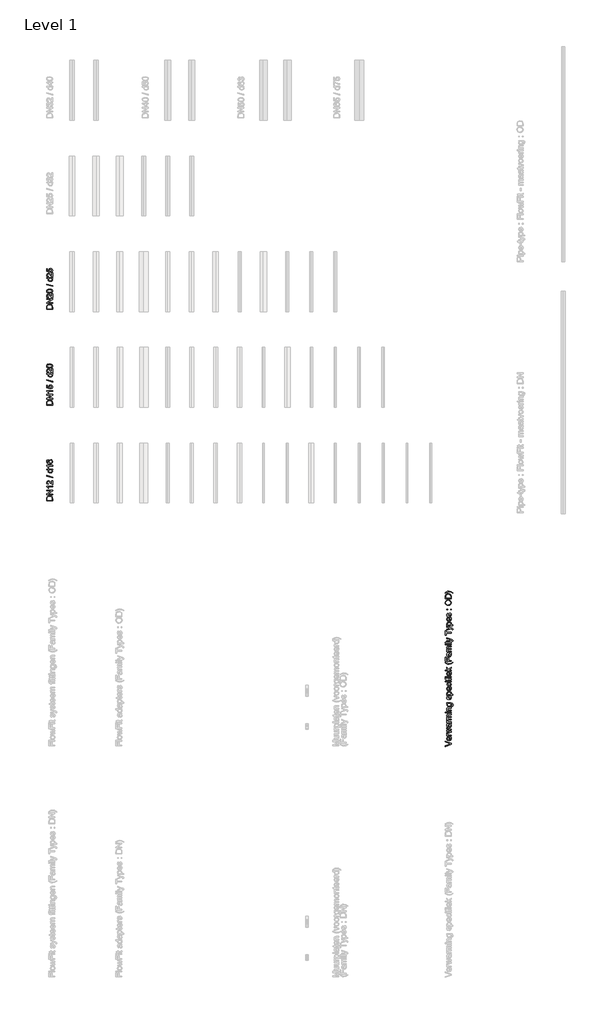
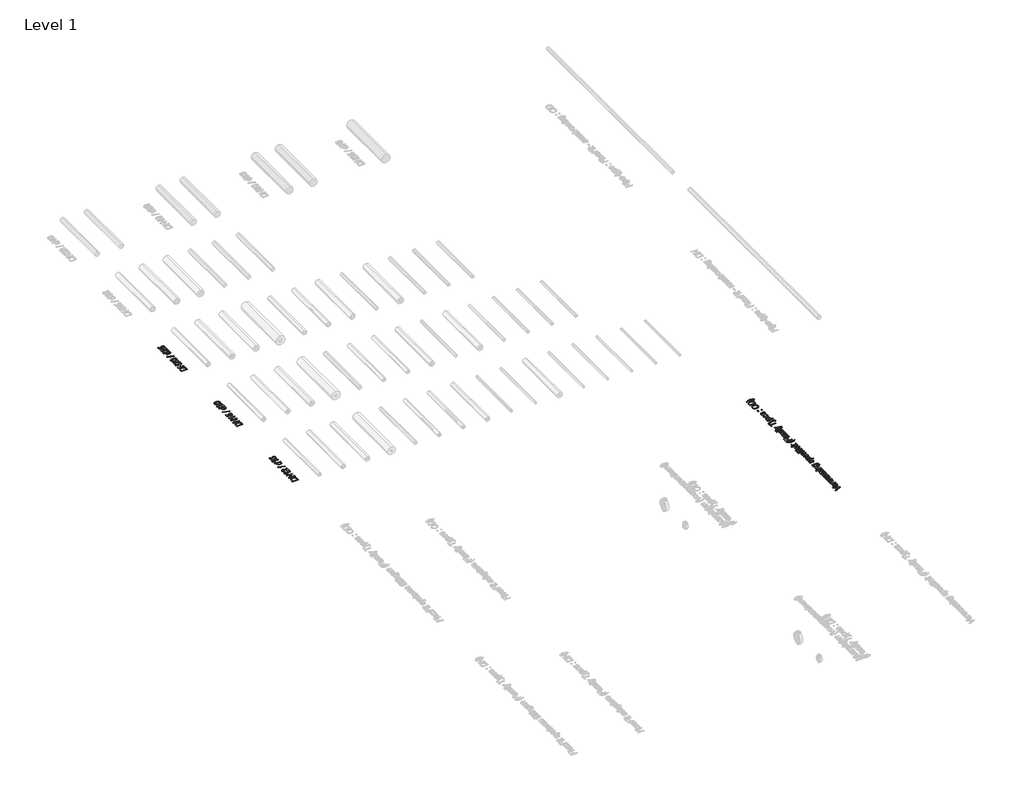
# One storey, part 9 of 11: 4 proxies.
"""IFC4 building model written with IfcOpenShell, lengths in millimetres."""

from ifc_helpers import new_model, si_unit, origin, origin_with_axes, place, context, project, spatial, polyline, outline, extrude, element, save

model = new_model("IFC4")

# Units and contexts
model_context = context("Model", 3, world=origin())
ifc_project = project(units=[si_unit("LENGTHUNIT", "METRE", prefix="MILLI")], contexts=[model_context])

# Site, building, storey
site = spatial("IfcSite", under=ifc_project)
building = spatial("IfcBuilding", under=site)
storey = spatial("IfcBuildingStorey", under=building, Name="Level 1", Elevation=0.0)

# Proxies
placement = place(None, origin())
element("IfcBuildingElementProxy", 1, Name="S", ObjectType="S", at=placement, inside=storey, context=model_context, shape_type="SweptSolid", body=[
    extrude(outline(polyline([(171.7931305, 4108.4123634), (121.5649754, 4108.4123634), (121.5649754, 4125.7396054), (122.2884767, 4134.7036634), (125.8814575, 4142.0858287), (134.4653707, 4148.0332543), (146.4092728, 4150.0075544), (156.5444218, 4148.6709164), (163.8591421, 4145.2373512), (168.4147475, 4140.6510889), (170.9347392, 4134.6484811), (171.7931305, 4126.5734713), (171.7931305, 4108.4123634)]), holes=[polyline([(165.5146111, 4114.6908828), (165.5146111, 4125.8009191), (164.6071689, 4133.8820602), (162.0442576, 4138.5418988), (155.8086578, 4142.3617402), (146.311171, 4143.729035), (134.4163198, 4141.0496278), (128.8490389, 4134.5319851), (127.8434948, 4125.6292408), (127.8434948, 4114.6908828), (165.5146111, 4114.6908828)])]), origin_with_axes(), (0.0, 0.0, 1.0), 3.0),
    extrude(outline(polyline([(171.7931305, 4158.6405185), (121.5649754, 4158.6405185), (121.5649754, 4165.3604963), (161.3575446, 4191.6027453), (121.5649754, 4191.6027453), (121.5649754, 4197.8812647), (171.7931305, 4197.8812647), (171.7931305, 4191.1612869), (131.9882986, 4164.9190379), (171.7931305, 4164.9190379), (171.7931305, 4158.6405185)])), origin_with_axes(), (0.0, 0.0, 1.0), 3.0),
    extrude(outline(polyline([(171.7931305, 4230.0586765), (171.7931305, 4223.7801571), (132.6504862, 4223.7801571), (136.8872605, 4217.8327315), (140.057177, 4211.2231184), (134.1220142, 4211.2231184), (128.248165, 4220.4262996), (121.5649754, 4226.0119746), (121.5649754, 4230.0586765), (171.7931305, 4230.0586765)])), origin_with_axes(), (0.0, 0.0, 1.0), 3.0),
    extrude(outline(polyline([(165.5146111, 4277.1475719), (171.7931305, 4277.1475719), (171.7931305, 4244.1853451), (167.4643857, 4244.8597954), (160.7995902, 4248.6735055), (153.5216581, 4256.5339174), (143.0615467, 4267.3741736), (135.9491614, 4270.0842376), (130.1918082, 4267.5274577), (127.8434948, 4260.8503995), (130.1366259, 4253.8912984), (136.476459, 4251.2486794), (135.691644, 4244.97016), (125.1824817, 4249.7832828), (121.5649754, 4260.9852896), (125.5871519, 4272.2240845), (135.5690167, 4276.362757), (141.5225737, 4275.2468482), (147.6784657, 4271.5373715), (156.280773, 4262.5426567), (162.3201691, 4255.3199068), (165.5146111, 4252.4872155), (165.5146111, 4277.1475719)])), origin_with_axes(), (0.0, 0.0, 1.0), 3.0),
    extrude(outline(polyline([(171.7931305, 4299.9072047), (121.5649754, 4314.0338733), (121.5649754, 4319.699256), (171.7931305, 4305.5725874), (171.7931305, 4299.9072047)])), origin_with_axes(), (0.0, 0.0, 1.0), 3.0),
    extrude(outline(polyline([(171.7931305, 4366.6164731), (165.8702304, 4366.6164731), (170.9010167, 4362.4624723), (172.5779454, 4356.7204474), (170.1499242, 4348.9458746), (163.3747642, 4343.4521702), (153.386768, 4341.5023956), (143.3926405, 4343.298886), (136.5132472, 4348.6822259), (134.1220142, 4356.695922), (135.8326655, 4362.483932), (140.2779062, 4366.6164731), (121.5649754, 4366.6164731), (121.5649754, 4372.8949925), (171.7931305, 4372.8949925), (171.7931305, 4366.6164731)]), holes=[polyline([(153.3622425, 4347.780915), (163.0804586, 4350.6136063), (166.299426, 4357.2967959), (163.2276114, 4363.9002777), (153.8404891, 4366.6164731), (143.6501579, 4363.8512268), (140.4005336, 4357.0392785), (143.5213992, 4350.4296653), (153.3622425, 4347.780915)])]), origin_with_axes(), (0.0, 0.0, 1.0), 3.0),
    extrude(outline(polyline([(171.7931305, 4404.2875894), (171.7931305, 4398.00907), (132.6504862, 4398.00907), (136.8872605, 4392.0616445), (140.057177, 4385.4520313), (134.1220142, 4385.4520313), (128.248165, 4394.6552125), (121.5649754, 4400.2408875), (121.5649754, 4404.2875894), (171.7931305, 4404.2875894)])), origin_with_axes(), (0.0, 0.0, 1.0), 3.0),
    extrude(outline(polyline([(134.9068291, 4451.3764848), (135.691644, 4445.0979654), (130.455457, 4442.7189952), (127.8434948, 4436.4282131), (129.3640737, 4430.7628303), (135.072376, 4426.4770051), (146.26212, 4424.6927774), (141.2527935, 4430.2294014), (139.6157186, 4437.0904007), (144.0916163, 4447.7589785), (155.6553736, 4452.1612997), (164.3189946, 4450.0888978), (170.4503612, 4444.3867269), (172.5779454, 4436.1584329), (166.9370882, 4423.3622709), (159.4690837, 4419.6512612), (148.3467847, 4418.414258), (135.8418625, 4419.7876842), (127.2916718, 4423.9079625), (122.9966495, 4429.5334913), (121.5649754, 4436.8206205), (125.1089053, 4446.7411717), (134.9068291, 4451.3764848)]), holes=[polyline([(155.5572718, 4424.6927774), (160.9957939, 4426.1459113), (164.944394, 4430.0086723), (166.299426, 4435.6679236), (163.4912601, 4443.0684831), (155.8638401, 4445.8827803), (148.5613825, 4443.1052713), (145.894238, 4435.4104062), (148.5613825, 4427.813643), (155.5572718, 4424.6927774)])]), origin_with_axes(), (0.0, 0.0, 1.0), 3.0),
])
element("IfcBuildingElementProxy", 2, Name="S", ObjectType="S", at=placement, inside=storey, context=model_context, shape_type="SweptSolid", body=[
    extrude(outline(polyline([(171.7931305, 4908.4123634), (121.5649754, 4908.4123634), (121.5649754, 4925.7396054), (122.2884767, 4934.7036634), (125.8814575, 4942.0858287), (134.4653707, 4948.0332543), (146.4092728, 4950.0075544), (156.5444218, 4948.6709164), (163.8591421, 4945.2373512), (168.4147475, 4940.6510889), (170.9347392, 4934.6484811), (171.7931305, 4926.5734713), (171.7931305, 4908.4123634)]), holes=[polyline([(165.5146111, 4914.6908828), (165.5146111, 4925.8009191), (164.6071689, 4933.8820602), (162.0442576, 4938.5418988), (155.8086578, 4942.3617402), (146.311171, 4943.729035), (134.4163198, 4941.0496278), (128.8490389, 4934.5319851), (127.8434948, 4925.6292408), (127.8434948, 4914.6908828), (165.5146111, 4914.6908828)])]), origin_with_axes(), (0.0, 0.0, 1.0), 3.0),
    extrude(outline(polyline([(171.7931305, 4958.6405185), (121.5649754, 4958.6405185), (121.5649754, 4965.3604963), (161.3575446, 4991.6027453), (121.5649754, 4991.6027453), (121.5649754, 4997.8812647), (171.7931305, 4997.8812647), (171.7931305, 4991.1612869), (131.9882986, 4964.9190379), (171.7931305, 4964.9190379), (171.7931305, 4958.6405185)])), origin_with_axes(), (0.0, 0.0, 1.0), 3.0),
    extrude(outline(polyline([(171.7931305, 5030.0586765), (171.7931305, 5023.7801571), (132.6504862, 5023.7801571), (136.8872605, 5017.8327315), (140.057177, 5011.2231184), (134.1220142, 5011.2231184), (128.248165, 5020.4262996), (121.5649754, 5026.0119746), (121.5649754, 5030.0586765), (171.7931305, 5030.0586765)])), origin_with_axes(), (0.0, 0.0, 1.0), 3.0),
    extrude(outline(polyline([(158.4512768, 5044.97016), (157.6664619, 5051.2486794), (164.1350536, 5054.4124646), (166.299426, 5060.9730268), (163.288925, 5068.8457015), (155.2997544, 5071.6538674), (147.8440126, 5069.0235112), (145.1094231, 5061.0711287), (146.2008064, 5055.5590301), (149.0334977, 5052.0334944), (148.2486828, 5045.754975), (122.3497903, 5051.2486794), (122.3497903, 5075.577942), (128.6283097, 5075.577942), (128.6283097, 5056.325451), (142.4606727, 5053.6399124), (138.8309037, 5062.8246995), (143.3313268, 5073.5607224), (154.9073469, 5077.9323868), (166.5569434, 5073.9960495), (171.0726949, 5068.3429295), (172.5779454, 5060.9485014), (168.7090531, 5049.8691219), (158.4512768, 5044.97016)])), origin_with_axes(), (0.0, 0.0, 1.0), 3.0),
    extrude(outline(polyline([(171.7931305, 5099.9072047), (121.5649754, 5114.0338733), (121.5649754, 5119.699256), (171.7931305, 5105.5725874), (171.7931305, 5099.9072047)])), origin_with_axes(), (0.0, 0.0, 1.0), 3.0),
    extrude(outline(polyline([(171.7931305, 5166.6164731), (165.8702304, 5166.6164731), (170.9010167, 5162.4624723), (172.5779454, 5156.7204474), (170.1499242, 5148.9458746), (163.3747642, 5143.4521702), (153.386768, 5141.5023956), (143.3926405, 5143.298886), (136.5132472, 5148.6822259), (134.1220142, 5156.695922), (135.8326655, 5162.483932), (140.2779062, 5166.6164731), (121.5649754, 5166.6164731), (121.5649754, 5172.8949925), (171.7931305, 5172.8949925), (171.7931305, 5166.6164731)]), holes=[polyline([(153.3622425, 5147.780915), (163.0804586, 5150.6136063), (166.299426, 5157.2967959), (163.2276114, 5163.9002777), (153.8404891, 5166.6164731), (143.6501579, 5163.8512268), (140.4005336, 5157.0392785), (143.5213992, 5150.4296653), (153.3622425, 5147.780915)])]), origin_with_axes(), (0.0, 0.0, 1.0), 3.0),
    extrude(outline(polyline([(165.5146111, 5212.9205536), (171.7931305, 5212.9205536), (171.7931305, 5179.9583268), (167.4643857, 5180.6327771), (160.7995902, 5184.4464872), (153.5216581, 5192.3068991), (143.0615467, 5203.1471552), (135.9491614, 5205.8572193), (130.1918082, 5203.3004394), (127.8434948, 5196.6233812), (130.1366259, 5189.6642801), (136.476459, 5187.0216611), (135.691644, 5180.7431417), (125.1824817, 5185.5562645), (121.5649754, 5196.7582713), (125.5871519, 5207.9970662), (135.5690167, 5212.1357387), (141.5225737, 5211.0198299), (147.6784657, 5207.3103532), (156.280773, 5198.3156384), (162.3201691, 5191.0928885), (165.5146111, 5188.2601972), (165.5146111, 5212.9205536)])), origin_with_axes(), (0.0, 0.0, 1.0), 3.0),
    extrude(outline(polyline([(147.0837231, 5219.199073), (132.6320921, 5221.0446143), (124.2995649, 5226.526056), (121.5649754, 5235.6801863), (123.1836562, 5243.0133008), (127.8496262, 5248.0778096), (135.2808425, 5251.0208655), (147.0837231, 5252.1612997), (161.4740405, 5250.3341525), (169.8249618, 5244.8711049), (172.5779454, 5235.6801863), (167.7954795, 5224.2022681), (159.3004711, 5220.4498717), (147.0837231, 5219.199073)]), holes=[polyline([(147.0714604, 5225.4775923), (162.6635256, 5228.4206483), (166.299426, 5235.6801863), (162.6512629, 5242.9397244), (147.0714604, 5245.8827803), (131.6572048, 5243.0378262), (127.8434948, 5235.6066099), (131.2034837, 5228.5187502), (147.0714604, 5225.4775923)])]), origin_with_axes(), (0.0, 0.0, 1.0), 3.0),
])
element("IfcBuildingElementProxy", 3, Name="S", ObjectType="S", at=placement, inside=storey, context=model_context, shape_type="SweptSolid", body=[
    extrude(outline(polyline([(171.7931305, 5708.4123634), (121.5649754, 5708.4123634), (121.5649754, 5725.7396054), (122.2884767, 5734.7036634), (125.8814575, 5742.0858287), (134.4653707, 5748.0332543), (146.4092728, 5750.0075544), (156.5444218, 5748.6709164), (163.8591421, 5745.2373512), (168.4147475, 5740.6510889), (170.9347392, 5734.6484811), (171.7931305, 5726.5734713), (171.7931305, 5708.4123634)]), holes=[polyline([(165.5146111, 5714.6908828), (165.5146111, 5725.8009191), (164.6071689, 5733.8820602), (162.0442576, 5738.5418988), (155.8086578, 5742.3617402), (146.311171, 5743.729035), (134.4163198, 5741.0496278), (128.8490389, 5734.5319851), (127.8434948, 5725.6292408), (127.8434948, 5714.6908828), (165.5146111, 5714.6908828)])]), origin_with_axes(), (0.0, 0.0, 1.0), 3.0),
    extrude(outline(polyline([(171.7931305, 5758.6405185), (121.5649754, 5758.6405185), (121.5649754, 5765.3604963), (161.3575446, 5791.6027453), (121.5649754, 5791.6027453), (121.5649754, 5797.8812647), (171.7931305, 5797.8812647), (171.7931305, 5791.1612869), (131.9882986, 5764.9190379), (171.7931305, 5764.9190379), (171.7931305, 5758.6405185)])), origin_with_axes(), (0.0, 0.0, 1.0), 3.0),
    extrude(outline(polyline([(165.5146111, 5838.6916407), (171.7931305, 5838.6916407), (171.7931305, 5805.7294139), (167.4643857, 5806.4038642), (160.7995902, 5810.2175742), (153.5216581, 5818.0779862), (143.0615467, 5828.9182423), (135.9491614, 5831.6283064), (130.1918082, 5829.0715265), (127.8434948, 5822.3944683), (130.1366259, 5815.4353672), (136.476459, 5812.7927482), (135.691644, 5806.5142288), (125.1824817, 5811.3273516), (121.5649754, 5822.5293583), (125.5871519, 5833.7681533), (135.5690167, 5837.9068257), (141.5225737, 5836.790917), (147.6784657, 5833.0814402), (156.280773, 5824.0867255), (162.3201691, 5816.8639756), (165.5146111, 5814.0312843), (165.5146111, 5838.6916407)])), origin_with_axes(), (0.0, 0.0, 1.0), 3.0),
    extrude(outline(polyline([(147.0837231, 5844.97016), (132.6320921, 5846.8157014), (124.2995649, 5852.2971431), (121.5649754, 5861.4512734), (123.1836562, 5868.7843879), (127.8496262, 5873.8488967), (135.2808425, 5876.7919526), (147.0837231, 5877.9323868), (161.4740405, 5876.1052396), (169.8249618, 5870.6421919), (172.5779454, 5861.4512734), (167.7954795, 5849.9733552), (159.3004711, 5846.2209588), (147.0837231, 5844.97016)]), holes=[polyline([(147.0714604, 5851.2486794), (162.6635256, 5854.1917354), (166.299426, 5861.4512734), (162.6512629, 5868.7108115), (147.0714604, 5871.6538674), (131.6572048, 5868.8089133), (127.8434948, 5861.377697), (131.2034837, 5854.2898373), (147.0714604, 5851.2486794)])]), origin_with_axes(), (0.0, 0.0, 1.0), 3.0),
    extrude(outline(polyline([(171.7931305, 5899.9072047), (121.5649754, 5914.0338733), (121.5649754, 5919.699256), (171.7931305, 5905.5725874), (171.7931305, 5899.9072047)])), origin_with_axes(), (0.0, 0.0, 1.0), 3.0),
    extrude(outline(polyline([(171.7931305, 5966.6164731), (165.8702304, 5966.6164731), (170.9010167, 5962.4624723), (172.5779454, 5956.7204474), (170.1499242, 5948.9458746), (163.3747642, 5943.4521702), (153.386768, 5941.5023956), (143.3926405, 5943.298886), (136.5132472, 5948.6822259), (134.1220142, 5956.695922), (135.8326655, 5962.483932), (140.2779062, 5966.6164731), (121.5649754, 5966.6164731), (121.5649754, 5972.8949925), (171.7931305, 5972.8949925), (171.7931305, 5966.6164731)]), holes=[polyline([(153.3622425, 5947.780915), (163.0804586, 5950.6136063), (166.299426, 5957.2967959), (163.2276114, 5963.9002777), (153.8404891, 5966.6164731), (143.6501579, 5963.8512268), (140.4005336, 5957.0392785), (143.5213992, 5950.4296653), (153.3622425, 5947.780915)])]), origin_with_axes(), (0.0, 0.0, 1.0), 3.0),
    extrude(outline(polyline([(165.5146111, 6012.9205536), (171.7931305, 6012.9205536), (171.7931305, 5979.9583268), (167.4643857, 5980.6327771), (160.7995902, 5984.4464872), (153.5216581, 5992.3068991), (143.0615467, 6003.1471552), (135.9491614, 6005.8572193), (130.1918082, 6003.3004394), (127.8434948, 5996.6233812), (130.1366259, 5989.6642801), (136.476459, 5987.0216611), (135.691644, 5980.7431417), (125.1824817, 5985.5562645), (121.5649754, 5996.7582713), (125.5871519, 6007.9970662), (135.5690167, 6012.1357387), (141.5225737, 6011.0198299), (147.6784657, 6007.3103532), (156.280773, 5998.3156384), (162.3201691, 5991.0928885), (165.5146111, 5988.2601972), (165.5146111, 6012.9205536)])), origin_with_axes(), (0.0, 0.0, 1.0), 3.0),
    extrude(outline(polyline([(158.4512768, 6019.199073), (157.6664619, 6025.4775923), (164.1350536, 6028.6413775), (166.299426, 6035.2019398), (163.288925, 6043.0746144), (155.2997544, 6045.8827803), (147.8440126, 6043.2524241), (145.1094231, 6035.3000416), (146.2008064, 6029.7879431), (149.0334977, 6026.2624073), (148.2486828, 6019.9838879), (122.3497903, 6025.4775923), (122.3497903, 6049.806855), (128.6283097, 6049.806855), (128.6283097, 6030.5543639), (142.4606727, 6027.8688253), (138.8309037, 6037.0536125), (143.3313268, 6047.7896354), (154.9073469, 6052.1612997), (166.5569434, 6048.2249624), (171.0726949, 6042.5718424), (172.5779454, 6035.1774143), (168.7090531, 6024.0980349), (158.4512768, 6019.199073)])), origin_with_axes(), (0.0, 0.0, 1.0), 3.0),
])
element("IfcBuildingElementProxy", 4, Name="S", ObjectType="S", at=placement, inside=storey, context=model_context, shape_type="SweptSolid", body=[
    extrude(outline(polyline([(3505.0, 2073.2502706), (3454.7718449, 2053.2620155), (3454.7718449, 2059.9819933), (3490.9591705, 2073.3606352), (3499.1138881, 2076.0706992), (3490.9591705, 2078.743975), (3454.7718449, 2092.1594051), (3454.7718449, 2098.8793829), (3505.0, 2079.7372564), (3505.0, 2073.2502706)])), origin_with_axes(), (0.0, 0.0, 1.0), 3.0),
    extrude(outline(polyline([(3494.0125911, 2129.756945), (3494.797406, 2135.9128371), (3502.9030726, 2130.1554839), (3505.7848149, 2119.4317237), (3500.8122766, 2106.3964383), (3486.8634176, 2101.5771842), (3472.4547062, 2106.4454893), (3467.3288837, 2119.0761044), (3472.4424434, 2131.344969), (3486.8266294, 2136.1090408), (3488.5188866, 2136.0722526), (3488.5188866, 2107.8557036), (3496.6736042, 2111.4670785), (3499.5062955, 2119.554351), (3498.1941831, 2125.7102431), (3494.0125911, 2129.756945)]), holes=[polyline([(3482.2403672, 2107.8557036), (3482.2403672, 2129.8305214), (3476.550459, 2127.3166611), (3473.6074031, 2119.051579), (3475.9557165, 2111.3199257), (3482.2403672, 2107.8557036)])]), origin_with_axes(), (0.0, 0.0, 1.0), 3.0),
    extrude(outline(polyline([(3505.0, 2142.3875602), (3468.1136986, 2142.3875602), (3468.1136986, 2147.8812647), (3473.5706149, 2147.8812647), (3468.5428943, 2151.7808138), (3467.3288837, 2155.7048884), (3469.2663955, 2162.0079333), (3474.8949901, 2159.9110059), (3473.6074031, 2155.496422), (3474.8459391, 2151.9463607), (3478.2795044, 2149.6838864), (3485.6126189, 2148.6660796), (3505.0, 2148.6660796), (3505.0, 2142.3875602)])), origin_with_axes(), (0.0, 0.0, 1.0), 3.0),
    extrude(outline(polyline([(3505.0, 2172.0511117), (3468.1136986, 2160.8307109), (3468.1136986, 2167.3544849), (3489.6347953, 2173.7188435), (3497.323529, 2175.6195671), (3489.9168382, 2177.1769342), (3468.1136986, 2182.241443), (3468.1136986, 2189.7217102), (3489.8555245, 2194.7616936), (3496.5632396, 2196.1473824), (3489.4876425, 2198.1339452), (3468.1136986, 2204.5105665), (3468.1136986, 2211.058866), (3505.0, 2199.752626), (3505.0, 2192.1619941), (3483.3685387, 2187.34274), (3476.6240354, 2185.9447884), (3505.0, 2179.7275827), (3505.0, 2172.0511117)])), origin_with_axes(), (0.0, 0.0, 1.0), 3.0),
    extrude(outline(polyline([(3500.2911105, 2238.9197957), (3504.5462789, 2232.8313487), (3505.7848149, 2226.1052396), (3502.8049708, 2216.9878975), (3495.1898135, 2213.8057182), (3490.2234065, 2215.007466), (3486.618163, 2218.1651198), (3484.5580238, 2222.5613097), (3483.6137933, 2227.9937005), (3481.4555523, 2238.8830075), (3475.4222876, 2237.1907504), (3473.6074031, 2230.2500434), (3474.8152823, 2223.8979476), (3479.1011075, 2220.8690525), (3478.3162926, 2214.5905331), (3472.184926, 2217.3067285), (3468.5919452, 2222.7759075), (3467.3288837, 2231.0593838), (3468.4447924, 2238.6684097), (3471.2468269, 2242.9664977), (3475.5081267, 2244.8917468), (3481.0018312, 2245.1983151), (3488.8131922, 2245.1983151), (3499.7208934, 2245.5171462), (3505.0, 2246.767945), (3505.0, 2240.4894256), (3500.2911105, 2238.9197957)]), holes=[polyline([(3487.7340717, 2238.9197957), (3489.6593208, 2228.7907781), (3490.6771277, 2223.3890442), (3492.3325966, 2220.9426289), (3494.7483551, 2220.0842376), (3498.1451322, 2221.9543044), (3499.5062955, 2227.4418775), (3498.0041107, 2233.7939733), (3494.3682103, 2237.8897261), (3489.512168, 2238.8830075), (3487.7340717, 2238.9197957)])]), origin_with_axes(), (0.0, 0.0, 1.0), 3.0),
    extrude(outline(polyline([(3505.0, 2253.8312793), (3468.1136986, 2253.8312793), (3468.1136986, 2259.3249837), (3473.5706149, 2259.3249837), (3468.5428943, 2263.2245329), (3467.3288837, 2267.1486075), (3469.2663955, 2273.4516523), (3474.8949901, 2271.354725), (3473.6074031, 2266.940141), (3474.8459391, 2263.3900798), (3478.2795044, 2261.1276055), (3485.6126189, 2260.1097987), (3505.0, 2260.1097987), (3505.0, 2253.8312793)])), origin_with_axes(), (0.0, 0.0, 1.0), 3.0),
    extrude(outline(polyline([(3505.0, 2277.375727), (3468.1136986, 2277.375727), (3468.1136986, 2283.6542463), (3474.1837515, 2283.6542463), (3469.2112132, 2287.9707284), (3467.3288837, 2294.1143577), (3469.2480014, 2300.4051399), (3474.6252099, 2303.8632306), (3469.1529653, 2308.7621925), (3467.3288837, 2314.9487414), (3470.3639102, 2323.1586413), (3479.7142442, 2326.0342522), (3505.0, 2326.0342522), (3505.0, 2319.7557328), (3482.4120455, 2319.7557328), (3477.1697271, 2319.173253), (3474.5884217, 2317.0640629), (3473.6074031, 2313.4772134), (3476.1212634, 2307.3029273), (3484.1778791, 2304.8442493), (3505.0, 2304.8442493), (3505.0, 2298.5657299), (3481.7130697, 2298.5657299), (3475.6307541, 2297.112596), (3473.6074031, 2292.3485242), (3474.9563037, 2287.7009483), (3478.9049038, 2284.6107395), (3486.3974338, 2283.6542463), (3505.0, 2283.6542463), (3505.0, 2277.375727)])), origin_with_axes(), (0.0, 0.0, 1.0), 3.0),
    extrude(outline(polyline([(3461.0503643, 2335.4520313), (3454.7718449, 2335.4520313), (3454.7718449, 2341.7305507), (3461.0503643, 2341.7305507), (3461.0503643, 2335.4520313)])), origin_with_axes(), (0.0, 0.0, 1.0), 3.0),
    extrude(outline(polyline([(3505.0, 2335.4520313), (3468.1136986, 2335.4520313), (3468.1136986, 2341.7305507), (3505.0, 2341.7305507), (3505.0, 2335.4520313)])), origin_with_axes(), (0.0, 0.0, 1.0), 3.0),
    extrude(outline(polyline([(3505.0, 2351.1483297), (3468.1136986, 2351.1483297), (3468.1136986, 2357.4268491), (3473.2640465, 2357.4268491), (3468.8126744, 2362.2277092), (3467.3288837, 2368.78214), (3468.5245002, 2374.7111715), (3471.6637599, 2378.7578735), (3476.2806789, 2380.640203), (3482.3507318, 2380.9712968), (3505.0, 2380.9712968), (3505.0, 2374.6927774), (3483.1968604, 2374.6927774), (3477.6418423, 2373.9692762), (3474.7049177, 2371.4124963), (3473.6074031, 2367.1021456), (3476.0722124, 2360.2901973), (3485.4286779, 2357.4268491), (3505.0, 2357.4268491), (3505.0, 2351.1483297)])), origin_with_axes(), (0.0, 0.0, 1.0), 3.0),
    extrude(outline(polyline([(3508.1392597, 2388.0346311), (3508.9240746, 2394.3131505), (3512.2350126, 2396.3487642), (3513.6329642, 2402.4433426), (3512.0510716, 2408.8690148), (3507.6119622, 2411.9346981), (3500.2911105, 2412.3638937), (3505.0, 2402.5537072), (3503.6296396, 2396.0805169), (3499.5185583, 2391.2535986), (3486.3729083, 2387.2498162), (3476.6424295, 2389.0463066), (3469.7569049, 2394.2457055), (3467.3288837, 2402.2471389), (3472.8225882, 2412.3638937), (3468.1136986, 2412.3638937), (3468.1136986, 2418.6424131), (3499.9600167, 2418.6424131), (3512.1553048, 2416.9256305), (3517.8268189, 2411.4871083), (3519.9114835, 2402.3207153), (3516.9745589, 2391.878998), (3508.1392597, 2388.0346311)]), holes=[polyline([(3485.9437126, 2393.5283356), (3495.6619287, 2396.2077428), (3498.7214806, 2402.9338519), (3495.6803228, 2409.6476983), (3486.1276536, 2412.3638937), (3476.7650569, 2409.5679906), (3473.6074031, 2402.8357501), (3476.7160059, 2396.244531), (3485.9437126, 2393.5283356)])]), origin_with_axes(), (0.0, 0.0, 1.0), 3.0),
    extrude(outline(polyline([(3494.0125911, 2445.3261205), (3493.2277762, 2451.6046399), (3497.8876148, 2454.5109076), (3499.5062955, 2461.1695718), (3498.0225048, 2467.5707185), (3494.5398886, 2469.6553831), (3491.71946, 2467.5584557), (3489.9291009, 2461.0959954), (3486.8572863, 2451.6414281), (3483.2704368, 2447.5150184), (3478.205928, 2446.1109354), (3473.5276953, 2447.2391069), (3469.9531086, 2450.3170529), (3468.0953045, 2454.3085725), (3467.3288837, 2459.7103065), (3468.5612884, 2467.3499893), (3471.8967518, 2472.2060316), (3477.5314777, 2474.3642726), (3478.3162926, 2468.0857533), (3474.8520705, 2465.7251771), (3473.6074031, 2460.2008158), (3474.7968882, 2454.1920766), (3477.5682659, 2452.3894548), (3479.3954131, 2453.1374815), (3480.781102, 2455.4796636), (3482.1177399, 2460.8875289), (3485.0730586, 2470.1029729), (3488.4207848, 2474.3826667), (3493.877701, 2475.9339025), (3499.8864403, 2474.1128866), (3504.2458419, 2468.8583055), (3505.7848149, 2461.0837326), (3502.8172335, 2450.1331119), (3494.0125911, 2445.3261205)])), origin_with_axes(), (0.0, 0.0, 1.0), 3.0),
    extrude(outline(polyline([(3519.1266686, 2482.9972368), (3468.1136986, 2482.9972368), (3468.1136986, 2489.2757562), (3474.2695907, 2489.2757562), (3469.0640604, 2493.6167637), (3467.3288837, 2499.4783502), (3469.7569049, 2507.436864), (3476.59951, 2512.6362629), (3486.2748064, 2514.3898337), (3496.4467436, 2512.4094023), (3503.3751879, 2506.6581805), (3505.7848149, 2498.7180607), (3504.1722655, 2493.2550131), (3500.0949067, 2489.2757562), (3519.1266686, 2489.2757562), (3519.1266686, 2482.9972368)]), holes=[polyline([(3486.8511549, 2489.2757562), (3496.4160868, 2491.9919516), (3499.5062955, 2498.5831707), (3496.3057222, 2505.3092798), (3486.385171, 2508.1113143), (3476.7957137, 2505.3767248), (3473.6074031, 2498.8406881), (3476.9980488, 2492.1758926), (3486.8511549, 2489.2757562)])]), origin_with_axes(), (0.0, 0.0, 1.0), 3.0),
    extrude(outline(polyline([(3494.0125911, 2547.2784841), (3494.797406, 2553.4343761), (3502.9030726, 2547.6770229), (3505.7848149, 2536.9532628), (3500.8122766, 2523.9179774), (3486.8634176, 2519.0987233), (3472.4547062, 2523.9670283), (3467.3288837, 2536.5976435), (3472.4424434, 2548.866508), (3486.8266294, 2553.6305799), (3488.5188866, 2553.5937917), (3488.5188866, 2525.3772426), (3496.6736042, 2528.9886176), (3499.5062955, 2537.0758901), (3498.1941831, 2543.2317821), (3494.0125911, 2547.2784841)]), holes=[polyline([(3482.2403672, 2525.3772426), (3482.2403672, 2547.3520605), (3476.550459, 2544.8382002), (3473.6074031, 2536.573118), (3475.9557165, 2528.8414648), (3482.2403672, 2525.3772426)])]), origin_with_axes(), (0.0, 0.0, 1.0), 3.0),
    extrude(outline(polyline([(3491.6581463, 2583.453547), (3492.4429612, 2589.7320663), (3502.2470164, 2584.692083), (3505.7848149, 2574.7347437), (3500.8490648, 2562.8337611), (3486.6917394, 2558.3394694), (3476.2622848, 2560.2585872), (3469.5607011, 2566.1079109), (3467.3288837, 2574.6489045), (3470.394567, 2584.1954423), (3479.1011075, 2588.9472514), (3479.8859225, 2582.668732), (3475.1831643, 2579.7563329), (3473.6074031, 2574.6979555), (3476.7098746, 2567.4200233), (3486.5200611, 2564.6179888), (3496.4222181, 2567.3587097), (3499.5062955, 2574.5262772), (3497.5810464, 2580.443046), (3491.6581463, 2583.453547)])), origin_with_axes(), (0.0, 0.0, 1.0), 3.0),
    extrude(outline(polyline([(3461.0503643, 2595.2257708), (3454.7718449, 2595.2257708), (3454.7718449, 2601.5042902), (3461.0503643, 2601.5042902), (3461.0503643, 2595.2257708)])), origin_with_axes(), (0.0, 0.0, 1.0), 3.0),
    extrude(outline(polyline([(3505.0, 2595.2257708), (3468.1136986, 2595.2257708), (3468.1136986, 2601.5042902), (3505.0, 2601.5042902), (3505.0, 2595.2257708)])), origin_with_axes(), (0.0, 0.0, 1.0), 3.0),
    extrude(outline(polyline([(3505.0, 2612.4916991), (3474.392218, 2612.4916991), (3474.392218, 2606.9979946), (3468.1136986, 2606.9979946), (3468.1136986, 2612.4916991), (3464.3980905, 2612.4916991), (3459.1619034, 2613.1538867), (3455.4217698, 2616.3667228), (3453.98703, 2622.6942931), (3454.6737431, 2628.4209895), (3460.559855, 2627.5012845), (3460.2655494, 2623.8837782), (3461.3078817, 2619.9290468), (3465.1951681, 2618.7702185), (3468.1136986, 2618.7702185), (3468.1136986, 2625.8335528), (3474.392218, 2625.8335528), (3474.392218, 2618.7702185), (3505.0, 2618.7702185), (3505.0, 2612.4916991)])), origin_with_axes(), (0.0, 0.0, 1.0), 3.0),
    extrude(outline(polyline([(3461.0503643, 2631.3272573), (3454.7718449, 2631.3272573), (3454.7718449, 2637.6057766), (3461.0503643, 2637.6057766), (3461.0503643, 2631.3272573)])), origin_with_axes(), (0.0, 0.0, 1.0), 3.0),
    extrude(outline(polyline([(3505.0, 2631.3272573), (3468.1136986, 2631.3272573), (3468.1136986, 2637.6057766), (3505.0, 2637.6057766), (3505.0, 2631.3272573)])), origin_with_axes(), (0.0, 0.0, 1.0), 3.0),
    extrude(outline(polyline([(3494.0125911, 2672.8488718), (3494.797406, 2679.0047638), (3502.9030726, 2673.2474106), (3505.7848149, 2662.5236504), (3500.8122766, 2649.4883651), (3486.8634176, 2644.6691109), (3472.4547062, 2649.537416), (3467.3288837, 2662.1680312), (3472.4424434, 2674.4368957), (3486.8266294, 2679.2009676), (3488.5188866, 2679.1641794), (3488.5188866, 2650.9476303), (3496.6736042, 2654.5590053), (3499.5062955, 2662.6462778), (3498.1941831, 2668.8021698), (3494.0125911, 2672.8488718)]), holes=[polyline([(3482.2403672, 2650.9476303), (3482.2403672, 2672.9224482), (3476.550459, 2670.4085879), (3473.6074031, 2662.1435057), (3475.9557165, 2654.4118525), (3482.2403672, 2650.9476303)])]), origin_with_axes(), (0.0, 0.0, 1.0), 3.0),
    extrude(outline(polyline([(3505.0, 2685.4794869), (3454.7718449, 2685.4794869), (3454.7718449, 2691.7580063), (3481.7621206, 2691.7580063), (3468.1136986, 2705.835624), (3468.1136986, 2714.5176391), (3481.9337989, 2700.2683432), (3505.0, 2715.302454), (3505.0, 2707.9693396), (3486.2993319, 2695.7679201), (3490.1866183, 2691.7580063), (3505.0, 2691.7580063), (3505.0, 2685.4794869)])), origin_with_axes(), (0.0, 0.0, 1.0), 3.0),
    extrude(outline(polyline([(3519.1266686, 2752.9735703), (3504.3991261, 2744.0585633), (3486.9124686, 2740.4165316), (3471.6453658, 2743.1388583), (3454.7718449, 2752.9735703), (3454.7718449, 2757.6824599), (3464.7169215, 2751.8086107), (3474.3554298, 2748.2769435), (3486.9492568, 2746.6950509), (3503.0440941, 2749.4419032), (3519.1266686, 2757.6824599), (3519.1266686, 2752.9735703)])), origin_with_axes(), (0.0, 0.0, 1.0), 3.0),
    extrude(outline(polyline([(3505.0, 2764.7457942), (3454.7718449, 2764.7457942), (3454.7718449, 2798.4928359), (3461.0503643, 2798.4928359), (3461.0503643, 2771.0243136), (3475.9618478, 2771.0243136), (3475.9618478, 2794.5687613), (3482.2403672, 2794.5687613), (3482.2403672, 2771.0243136), (3505.0, 2771.0243136), (3505.0, 2764.7457942)])), origin_with_axes(), (0.0, 0.0, 1.0), 3.0),
    extrude(outline(polyline([(3500.2911105, 2829.8854328), (3504.5462789, 2823.7969858), (3505.7848149, 2817.0708766), (3502.8049708, 2807.9535345), (3495.1898135, 2804.7713553), (3490.2234065, 2805.9731031), (3486.618163, 2809.1307569), (3484.5580238, 2813.5269467), (3483.6137933, 2818.9593375), (3481.4555523, 2829.8486446), (3475.4222876, 2828.1563874), (3473.6074031, 2821.2156804), (3474.8152823, 2814.8635847), (3479.1011075, 2811.8346896), (3478.3162926, 2805.5561702), (3472.184926, 2808.2723656), (3468.5919452, 2813.7415446), (3467.3288837, 2822.0250208), (3468.4447924, 2829.6340468), (3471.2468269, 2833.9321347), (3475.5081267, 2835.8573838), (3481.0018312, 2836.1639522), (3488.8131922, 2836.1639522), (3499.7208934, 2836.4827832), (3505.0, 2837.733582), (3505.0, 2831.4550626), (3500.2911105, 2829.8854328)]), holes=[polyline([(3487.7340717, 2829.8854328), (3489.6593208, 2819.7564152), (3490.6771277, 2814.3546812), (3492.3325966, 2811.908266), (3494.7483551, 2811.0498746), (3498.1451322, 2812.9199414), (3499.5062955, 2818.4075145), (3498.0041107, 2824.7596103), (3494.3682103, 2828.8553632), (3489.512168, 2829.8486446), (3487.7340717, 2829.8854328)])]), origin_with_axes(), (0.0, 0.0, 1.0), 3.0),
    extrude(outline(polyline([(3505.0, 2844.7969163), (3468.1136986, 2844.7969163), (3468.1136986, 2851.0754357), (3474.1837515, 2851.0754357), (3469.2112132, 2855.3919178), (3467.3288837, 2861.5355471), (3469.2480014, 2867.8263292), (3474.6252099, 2871.28442), (3469.1529653, 2876.1833819), (3467.3288837, 2882.3699308), (3470.3639102, 2890.5798306), (3479.7142442, 2893.4554416), (3505.0, 2893.4554416), (3505.0, 2887.1769222), (3482.4120455, 2887.1769222), (3477.1697271, 2886.5944423), (3474.5884217, 2884.4852522), (3473.6074031, 2880.8984028), (3476.1212634, 2874.7241166), (3484.1778791, 2872.2654386), (3505.0, 2872.2654386), (3505.0, 2865.9869192), (3481.7130697, 2865.9869192), (3475.6307541, 2864.5337854), (3473.6074031, 2859.7697135), (3474.9563037, 2855.1221377), (3478.9049038, 2852.0319289), (3486.3974338, 2851.0754357), (3505.0, 2851.0754357), (3505.0, 2844.7969163)])), origin_with_axes(), (0.0, 0.0, 1.0), 3.0),
    extrude(outline(polyline([(3461.0503643, 2902.8732206), (3454.7718449, 2902.8732206), (3454.7718449, 2909.15174), (3461.0503643, 2909.15174), (3461.0503643, 2902.8732206)])), origin_with_axes(), (0.0, 0.0, 1.0), 3.0),
    extrude(outline(polyline([(3505.0, 2902.8732206), (3468.1136986, 2902.8732206), (3468.1136986, 2909.15174), (3505.0, 2909.15174), (3505.0, 2902.8732206)])), origin_with_axes(), (0.0, 0.0, 1.0), 3.0),
    extrude(outline(polyline([(3505.0, 2918.5695191), (3454.7718449, 2918.5695191), (3454.7718449, 2924.8480385), (3505.0, 2924.8480385), (3505.0, 2918.5695191)])), origin_with_axes(), (0.0, 0.0, 1.0), 3.0),
    extrude(outline(polyline([(3519.1266686, 2934.2658176), (3513.0811412, 2933.4810026), (3513.6329642, 2936.6693133), (3512.9401197, 2939.6491574), (3511.0087393, 2941.4763047), (3506.3856888, 2943.1930873), (3504.8651099, 2943.6835966), (3468.1136986, 2930.3417429), (3468.1136986, 2936.9636189), (3488.592463, 2944.0392159), (3496.7839688, 2946.5040253), (3489.5489562, 2948.9688346), (3468.1136986, 2956.2406354), (3468.1136986, 2962.8134604), (3505.8829168, 2949.9743787), (3514.0744225, 2946.6389153), (3518.5012692, 2942.9968836), (3519.9114835, 2938.104053), (3519.1266686, 2934.2658176)])), origin_with_axes(), (0.0, 0.0, 1.0), 3.0),
    extrude(outline(polyline([(3505.0, 3000.975086), (3461.0503643, 3000.975086), (3461.0503643, 2984.4939726), (3454.7718449, 2984.4939726), (3454.7718449, 3023.7347188), (3461.0503643, 3023.7347188), (3461.0503643, 3007.2536054), (3505.0, 3007.2536054), (3505.0, 3000.975086)])), origin_with_axes(), (0.0, 0.0, 1.0), 3.0),
    extrude(outline(polyline([(3519.1266686, 3030.0132382), (3513.0811412, 3029.2284232), (3513.6329642, 3032.4167339), (3512.9401197, 3035.396578), (3511.0087393, 3037.2237253), (3506.3856888, 3038.9405079), (3504.8651099, 3039.4310172), (3468.1136986, 3026.0891635), (3468.1136986, 3032.7110395), (3488.592463, 3039.7866365), (3496.7839688, 3042.2514459), (3489.5489562, 3044.7162552), (3468.1136986, 3051.988056), (3468.1136986, 3058.560881), (3505.8829168, 3045.7217994), (3514.0744225, 3042.3863359), (3518.5012692, 3038.7443042), (3519.9114835, 3033.8514736), (3519.1266686, 3030.0132382)])), origin_with_axes(), (0.0, 0.0, 1.0), 3.0),
    extrude(outline(polyline([(3519.1266686, 3063.7602799), (3468.1136986, 3063.7602799), (3468.1136986, 3070.0387992), (3474.2695907, 3070.0387992), (3469.0640604, 3074.3798068), (3467.3288837, 3080.2413932), (3469.7569049, 3088.1999071), (3476.59951, 3093.3993059), (3486.2748064, 3095.1528768), (3496.4467436, 3093.1724454), (3503.3751879, 3087.4212235), (3505.7848149, 3079.4811038), (3504.1722655, 3074.0180562), (3500.0949067, 3070.0387992), (3519.1266686, 3070.0387992), (3519.1266686, 3063.7602799)]), holes=[polyline([(3486.8511549, 3070.0387992), (3496.4160868, 3072.7549946), (3499.5062955, 3079.3462137), (3496.3057222, 3086.0723229), (3486.385171, 3088.8743574), (3476.7957137, 3086.1397679), (3473.6074031, 3079.6037311), (3476.9980488, 3072.9389356), (3486.8511549, 3070.0387992)])]), origin_with_axes(), (0.0, 0.0, 1.0), 3.0),
    extrude(outline(polyline([(3494.0125911, 3128.0415271), (3494.797406, 3134.1974192), (3502.9030726, 3128.440066), (3505.7848149, 3117.7163058), (3500.8122766, 3104.6810205), (3486.8634176, 3099.8617663), (3472.4547062, 3104.7300714), (3467.3288837, 3117.3606866), (3472.4424434, 3129.6295511), (3486.8266294, 3134.3936229), (3488.5188866, 3134.3568347), (3488.5188866, 3106.1402857), (3496.6736042, 3109.7516606), (3499.5062955, 3117.8389331), (3498.1941831, 3123.9948252), (3494.0125911, 3128.0415271)]), holes=[polyline([(3482.2403672, 3106.1402857), (3482.2403672, 3128.1151035), (3476.550459, 3125.6012432), (3473.6074031, 3117.3361611), (3475.9557165, 3109.6045078), (3482.2403672, 3106.1402857)])]), origin_with_axes(), (0.0, 0.0, 1.0), 3.0),
    extrude(outline(polyline([(3494.0125911, 3138.3176975), (3493.2277762, 3144.5962169), (3497.8876148, 3147.5024847), (3499.5062955, 3154.1611488), (3498.0225048, 3160.5622955), (3494.5398886, 3162.6469602), (3491.71946, 3160.5500328), (3489.9291009, 3154.0875724), (3486.8572863, 3144.6330051), (3483.2704368, 3140.5065954), (3478.205928, 3139.1025125), (3473.5276953, 3140.2306839), (3469.9531086, 3143.3086299), (3468.0953045, 3147.3001496), (3467.3288837, 3152.7018836), (3468.5612884, 3160.3415663), (3471.8967518, 3165.1976087), (3477.5314777, 3167.3558497), (3478.3162926, 3161.0773303), (3474.8520705, 3158.7167542), (3473.6074031, 3153.1923929), (3474.7968882, 3147.1836536), (3477.5682659, 3145.3810319), (3479.3954131, 3146.1290586), (3480.781102, 3148.4712406), (3482.1177399, 3153.8791059), (3485.0730586, 3163.0945499), (3488.4207848, 3167.3742438), (3493.877701, 3168.9254795), (3499.8864403, 3167.1044637), (3504.2458419, 3161.8498825), (3505.7848149, 3154.0753097), (3502.8172335, 3143.1246889), (3494.0125911, 3138.3176975)])), origin_with_axes(), (0.0, 0.0, 1.0), 3.0),
    extrude(outline(polyline([(3474.392218, 3197.1788168), (3468.1136986, 3197.1788168), (3468.1136986, 3203.4573362), (3474.392218, 3203.4573362), (3474.392218, 3197.1788168)])), origin_with_axes(), (0.0, 0.0, 1.0), 3.0),
    extrude(outline(polyline([(3505.0, 3197.1788168), (3498.7214806, 3197.1788168), (3498.7214806, 3203.4573362), (3505.0, 3203.4573362), (3505.0, 3197.1788168)])), origin_with_axes(), (0.0, 0.0, 1.0), 3.0),
    extrude(outline(polyline([(3480.5481101, 3233.2803032), (3469.4411395, 3234.9541663), (3461.0381016, 3239.9757555), (3455.7497979, 3247.6430295), (3453.98703, 3257.2539466), (3457.297968, 3269.7496717), (3466.531806, 3278.235483), (3479.9717616, 3281.1540135), (3493.5956581, 3278.0821989), (3502.6946062, 3269.3756583), (3505.7848149, 3257.2171584), (3502.3696437, 3244.5865432), (3493.0499665, 3236.1497828), (3480.5481101, 3233.2803032)]), holes=[polyline([(3480.6094237, 3239.5588226), (3494.4540495, 3244.5804119), (3499.5062955, 3257.1803702), (3494.4049985, 3269.8906931), (3479.9227107, 3274.8754942), (3469.5607011, 3272.7417786), (3462.6997019, 3266.5061788), (3460.2655494, 3257.2907348), (3464.9560448, 3244.7950097), (3471.2146373, 3240.8678694), (3480.6094237, 3239.5588226)])]), origin_with_axes(), (0.0, 0.0, 1.0), 3.0),
    extrude(outline(polyline([(3505.0, 3289.7869777), (3454.7718449, 3289.7869777), (3454.7718449, 3307.1142197), (3455.4953462, 3316.0782776), (3459.088327, 3323.460443), (3467.6722402, 3329.4078686), (3479.6161423, 3331.3821686), (3489.7512913, 3330.0455307), (3497.0660116, 3326.6119654), (3501.621617, 3322.0257032), (3504.1416087, 3316.0230953), (3505.0, 3307.9480855), (3505.0, 3289.7869777)]), holes=[polyline([(3498.7214806, 3296.0654971), (3498.7214806, 3307.1755333), (3497.8140384, 3315.2566745), (3495.2511271, 3319.9165131), (3489.0155273, 3323.7363545), (3479.5180405, 3325.1036492), (3467.6231893, 3322.424242), (3462.0559084, 3315.9065993), (3461.0503643, 3307.0038551), (3461.0503643, 3296.0654971), (3498.7214806, 3296.0654971)])]), origin_with_axes(), (0.0, 0.0, 1.0), 3.0),
    extrude(outline(polyline([(3519.1266686, 3340.7999477), (3519.1266686, 3336.0910582), (3503.0440941, 3344.3316148), (3486.9492568, 3347.0784671), (3474.4657944, 3345.4965745), (3464.8150234, 3342.0016955), (3454.7718449, 3336.0910582), (3454.7718449, 3340.7999477), (3471.6453658, 3350.6346597), (3486.9124686, 3353.3569865), (3504.3991261, 3349.6965606), (3519.1266686, 3340.7999477)])), origin_with_axes(), (0.0, 0.0, 1.0), 3.0),
])

save(model, "model.ifc")
